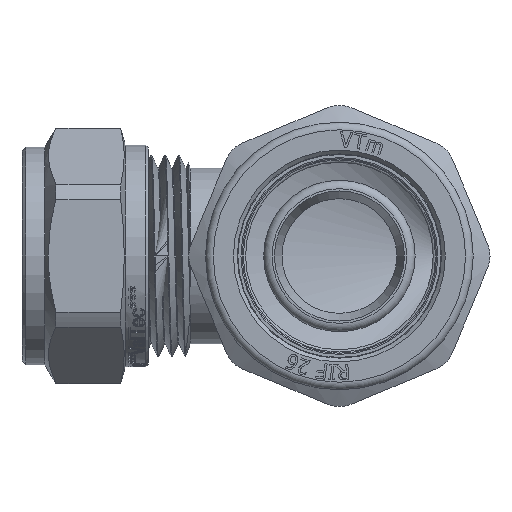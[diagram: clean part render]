
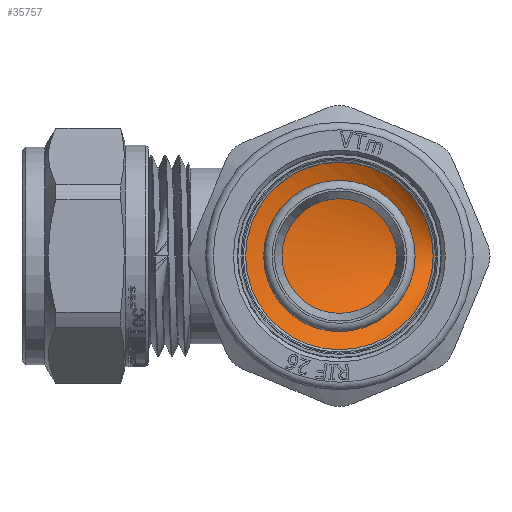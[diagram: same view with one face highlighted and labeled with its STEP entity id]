
A CAD part, left-side view. The second image highlights one B-rep face of the part: STEP entity #35757.
In plain terms, the highlighted cylindrical face has radius 15.25 mm (diameter 30.5 mm), a full revolution.
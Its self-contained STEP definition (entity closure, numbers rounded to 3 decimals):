
#2023=FACE_OUTER_BOUND('',#4051,.T.);
#4051=EDGE_LOOP('',(#24005,#24006,#24007,#24008,#24009,#24010,#24011,#24012));
#6249=CIRCLE('',#37810,15.25);
#6250=CIRCLE('',#37811,15.25);
#6251=CIRCLE('',#37812,15.25);
#7114=B_SPLINE_CURVE_WITH_KNOTS('',3,(#45602,#45603,#45604,#45605,#45606,
#45607,#45608,#45609,#45610,#45611,#45612,#45613,#45614,#45615,#45616,#45617,
#45618,#45619,#45620,#45621,#45622,#45623,#45624,#45625,#45626,#45627,#45628,
#45629,#45630,#45631,#45632,#45633,#45634,#45635),.UNSPECIFIED.,.F.,.F.,
(4,3,3,3,3,3,3,3,3,3,3,4),(1.209,1.479,1.972,
2.465,2.958,3.451,3.944,4.437,
4.93,5.424,5.917,6.096),
 .UNSPECIFIED.);
#7115=B_SPLINE_CURVE_WITH_KNOTS('',3,(#45638,#45639,#45640,#45641,#45642,
#45643,#45644,#45645,#45646,#45647),.UNSPECIFIED.,.F.,.F.,(4,3,3,4),(-1.271,
-0.973,-0.486,-0.148),.UNSPECIFIED.);
#9529=LINE('',#45600,#11947);
#9530=LINE('',#45649,#11948);
#11947=VECTOR('',#39602,15.25);
#11948=VECTOR('',#39605,15.25);
#14365=VERTEX_POINT('',#45598);
#14366=VERTEX_POINT('',#45599);
#14367=VERTEX_POINT('',#45601);
#14368=VERTEX_POINT('',#45636);
#14369=VERTEX_POINT('',#45648);
#14370=VERTEX_POINT('',#45650);
#18253=EDGE_CURVE('',#14365,#14366,#9529,.T.);
#18254=EDGE_CURVE('',#14367,#14365,#7114,.T.);
#18255=EDGE_CURVE('',#14368,#14367,#6249,.T.);
#18256=EDGE_CURVE('',#14366,#14368,#7115,.T.);
#18257=EDGE_CURVE('',#14366,#14369,#9530,.T.);
#18258=EDGE_CURVE('',#14370,#14369,#6250,.T.);
#18259=EDGE_CURVE('',#14369,#14370,#6251,.T.);
#24005=ORIENTED_EDGE('',*,*,#18253,.F.);
#24006=ORIENTED_EDGE('',*,*,#18254,.F.);
#24007=ORIENTED_EDGE('',*,*,#18255,.F.);
#24008=ORIENTED_EDGE('',*,*,#18256,.F.);
#24009=ORIENTED_EDGE('',*,*,#18257,.T.);
#24010=ORIENTED_EDGE('',*,*,#18258,.F.);
#24011=ORIENTED_EDGE('',*,*,#18259,.F.);
#24012=ORIENTED_EDGE('',*,*,#18257,.F.);
#35509=CYLINDRICAL_SURFACE('',#37809,15.25);
#35757=ADVANCED_FACE('',(#2023),#35509,.F.);
#37809=AXIS2_PLACEMENT_3D('',#45597,#39600,#39601);
#37810=AXIS2_PLACEMENT_3D('',#45637,#39603,#39604);
#37811=AXIS2_PLACEMENT_3D('',#45651,#39606,#39607);
#37812=AXIS2_PLACEMENT_3D('',#45652,#39608,#39609);
#39600=DIRECTION('center_axis',(1.,0.,0.));
#39601=DIRECTION('ref_axis',(0.,1.,0.));
#39602=DIRECTION('',(-1.,0.,0.));
#39603=DIRECTION('center_axis',(-1.,0.,0.));
#39604=DIRECTION('ref_axis',(0.,1.,0.));
#39605=DIRECTION('',(-1.,0.,0.));
#39606=DIRECTION('center_axis',(1.,0.,0.));
#39607=DIRECTION('ref_axis',(0.,0.,1.));
#39608=DIRECTION('center_axis',(1.,0.,0.));
#39609=DIRECTION('ref_axis',(0.,0.,1.));
#45597=CARTESIAN_POINT('Origin',(-31.82,0.,
0.));
#45598=CARTESIAN_POINT('',(-27.611,-15.25,0.));
#45599=CARTESIAN_POINT('',(-28.989,-15.25,0.));
#45600=CARTESIAN_POINT('',(-31.82,-15.25,0.));
#45601=CARTESIAN_POINT('',(-29.4,-2.658,-15.017));
#45602=CARTESIAN_POINT('Ctrl Pts',(-29.4,-2.658,
-15.015));
#45603=CARTESIAN_POINT('Ctrl Pts',(-29.367,-1.303,
-15.255));
#45604=CARTESIAN_POINT('Ctrl Pts',(-29.334,0.084,
-15.313));
#45605=CARTESIAN_POINT('Ctrl Pts',(-29.301,1.453,-15.182));
#45606=CARTESIAN_POINT('Ctrl Pts',(-29.241,3.947,-14.943));
#45607=CARTESIAN_POINT('Ctrl Pts',(-29.181,6.382,-14.077));
#45608=CARTESIAN_POINT('Ctrl Pts',(-29.12,8.466,-12.686));
#45609=CARTESIAN_POINT('Ctrl Pts',(-29.06,10.55,-11.295));
#45610=CARTESIAN_POINT('Ctrl Pts',(-29.,12.284,-9.38));
#45611=CARTESIAN_POINT('Ctrl Pts',(-28.94,13.462,-7.168));
#45612=CARTESIAN_POINT('Ctrl Pts',(-28.88,14.639,-4.956));
#45613=CARTESIAN_POINT('Ctrl Pts',(-28.82,15.261,-2.448));
#45614=CARTESIAN_POINT('Ctrl Pts',(-28.759,15.251,0.057));
#45615=CARTESIAN_POINT('Ctrl Pts',(-28.699,15.242,2.563));
#45616=CARTESIAN_POINT('Ctrl Pts',(-28.639,14.602,5.066));
#45617=CARTESIAN_POINT('Ctrl Pts',(-28.579,13.407,7.269));
#45618=CARTESIAN_POINT('Ctrl Pts',(-28.519,12.213,9.472));
#45619=CARTESIAN_POINT('Ctrl Pts',(-28.459,10.465,11.374));
#45620=CARTESIAN_POINT('Ctrl Pts',(-28.399,8.37,12.749));
#45621=CARTESIAN_POINT('Ctrl Pts',(-28.338,6.275,14.124));
#45622=CARTESIAN_POINT('Ctrl Pts',(-28.278,3.835,14.972));
#45623=CARTESIAN_POINT('Ctrl Pts',(-28.218,1.339,15.192));
#45624=CARTESIAN_POINT('Ctrl Pts',(-28.158,-1.157,
15.412));
#45625=CARTESIAN_POINT('Ctrl Pts',(-28.098,-3.709,
15.004));
#45626=CARTESIAN_POINT('Ctrl Pts',(-28.038,-6.012,
14.016));
#45627=CARTESIAN_POINT('Ctrl Pts',(-27.977,-8.314,
13.029));
#45628=CARTESIAN_POINT('Ctrl Pts',(-27.917,-10.369,
11.462));
#45629=CARTESIAN_POINT('Ctrl Pts',(-27.857,-11.93,
9.502));
#45630=CARTESIAN_POINT('Ctrl Pts',(-27.797,-13.491,
7.542));
#45631=CARTESIAN_POINT('Ctrl Pts',(-27.737,-14.559,5.189));
#45632=CARTESIAN_POINT('Ctrl Pts',(-27.677,-15.006,2.723));
#45633=CARTESIAN_POINT('Ctrl Pts',(-27.655,-15.169,
1.826));
#45634=CARTESIAN_POINT('Ctrl Pts',(-27.633,-15.25,
0.913));
#45635=CARTESIAN_POINT('Ctrl Pts',(-27.611,-15.249,
0.));
#45636=CARTESIAN_POINT('',(-29.4,-6.611,13.743));
#45637=CARTESIAN_POINT('Origin',(-29.4,0.,0.));
#45638=CARTESIAN_POINT('Ctrl Pts',(-28.989,-15.249,
0.));
#45639=CARTESIAN_POINT('Ctrl Pts',(-29.025,-15.248,
1.515));
#45640=CARTESIAN_POINT('Ctrl Pts',(-29.062,-15.024,
3.03));
#45641=CARTESIAN_POINT('Ctrl Pts',(-29.098,-14.579,
4.478));
#45642=CARTESIAN_POINT('Ctrl Pts',(-29.158,-13.853,
6.841));
#45643=CARTESIAN_POINT('Ctrl Pts',(-29.217,-12.541,
9.025));
#45644=CARTESIAN_POINT('Ctrl Pts',(-29.276,-10.794,10.774));
#45645=CARTESIAN_POINT('Ctrl Pts',(-29.318,-9.581,
11.989));
#45646=CARTESIAN_POINT('Ctrl Pts',(-29.359,-8.158,
12.995));
#45647=CARTESIAN_POINT('Ctrl Pts',(-29.4,-6.61,
13.741));
#45648=CARTESIAN_POINT('',(-37.245,-15.25,0.));
#45649=CARTESIAN_POINT('',(-31.82,-15.25,0.));
#45650=CARTESIAN_POINT('',(-37.245,15.25,0.));
#45651=CARTESIAN_POINT('Origin',(-37.245,0.,
0.));
#45652=CARTESIAN_POINT('Origin',(-37.245,0.,
0.));
